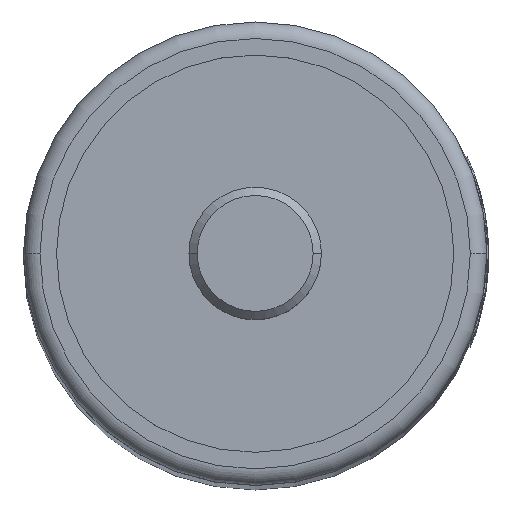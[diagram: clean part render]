
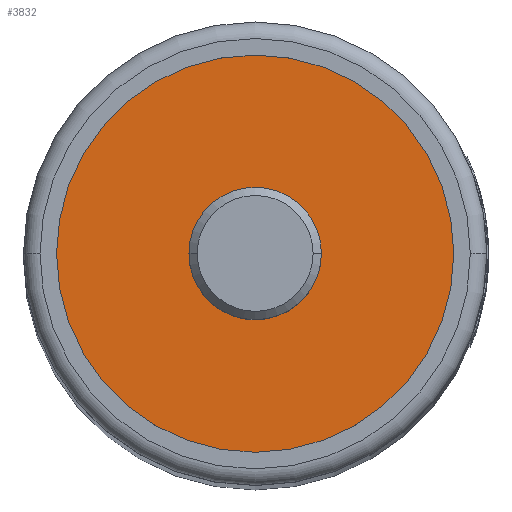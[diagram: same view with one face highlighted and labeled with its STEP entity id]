
A CAD part, top view. The second image highlights one B-rep face of the part: STEP entity #3832.
In plain terms, the highlighted planar face has unit normal (0, 0, 1).
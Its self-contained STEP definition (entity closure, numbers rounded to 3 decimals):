
#414 = CARTESIAN_POINT ( 'NONE',  ( 0., 0., 160. ) ) ;
#1060 = CIRCLE ( 'NONE', #13389, 4. ) ;
#1388 = EDGE_CURVE ( 'NONE', #4043, #12963, #14371, .T. ) ;
#1552 = AXIS2_PLACEMENT_3D ( 'NONE', #17140, #15897, #12738 ) ;
#1720 = CIRCLE ( 'NONE', #1552, 12. ) ;
#1882 = DIRECTION ( 'NONE',  ( 1., 0., 0. ) ) ;
#1908 = DIRECTION ( 'NONE',  ( 1., 0., 0. ) ) ;
#3264 = EDGE_CURVE ( 'NONE', #7329, #7827, #1720, .T. ) ;
#3600 = FACE_BOUND ( 'NONE', #19265, .T. ) ;
#3620 = CARTESIAN_POINT ( 'NONE',  ( -4., 0., 160. ) ) ;
#3832 = ADVANCED_FACE ( 'NONE', ( #3600, #15938 ), #16950, .T. ) ;
#3845 = CARTESIAN_POINT ( 'NONE',  ( -12., 0., 160. ) ) ;
#4043 = VERTEX_POINT ( 'NONE', #14652 ) ;
#6450 = CARTESIAN_POINT ( 'NONE',  ( 0., 0., 160. ) ) ;
#7329 = VERTEX_POINT ( 'NONE', #3845 ) ;
#7827 = VERTEX_POINT ( 'NONE', #16015 ) ;
#7970 = DIRECTION ( 'NONE',  ( 0., 0., 1. ) ) ;
#8481 = AXIS2_PLACEMENT_3D ( 'NONE', #9233, #15127, #18333 ) ;
#9233 = CARTESIAN_POINT ( 'NONE',  ( 0., 0., 160. ) ) ;
#11282 = ORIENTED_EDGE ( 'NONE', *, *, #18909, .F. ) ;
#11317 = CARTESIAN_POINT ( 'NONE',  ( 0., 0., 160. ) ) ;
#12379 = DIRECTION ( 'NONE',  ( 0., 0., 1. ) ) ;
#12421 = ORIENTED_EDGE ( 'NONE', *, *, #12755, .T. ) ;
#12678 = AXIS2_PLACEMENT_3D ( 'NONE', #11317, #16199, #14754 ) ;
#12738 = DIRECTION ( 'NONE',  ( 1., 0., 0. ) ) ;
#12755 = EDGE_CURVE ( 'NONE', #7827, #7329, #16270, .T. ) ;
#12963 = VERTEX_POINT ( 'NONE', #3620 ) ;
#13389 = AXIS2_PLACEMENT_3D ( 'NONE', #414, #12379, #1908 ) ;
#14096 = AXIS2_PLACEMENT_3D ( 'NONE', #6450, #7970, #1882 ) ;
#14371 = CIRCLE ( 'NONE', #12678, 4. ) ;
#14652 = CARTESIAN_POINT ( 'NONE',  ( 4., 0., 160. ) ) ;
#14754 = DIRECTION ( 'NONE',  ( 1., 0., 0. ) ) ;
#14950 = ORIENTED_EDGE ( 'NONE', *, *, #1388, .F. ) ;
#15127 = DIRECTION ( 'NONE',  ( 0., 0., 1. ) ) ;
#15897 = DIRECTION ( 'NONE',  ( 0., 0., 1. ) ) ;
#15938 = FACE_OUTER_BOUND ( 'NONE', #17745, .T. ) ;
#16015 = CARTESIAN_POINT ( 'NONE',  ( 12., 0., 160. ) ) ;
#16199 = DIRECTION ( 'NONE',  ( 0., 0., 1. ) ) ;
#16270 = CIRCLE ( 'NONE', #8481, 12. ) ;
#16950 = PLANE ( 'NONE',  #14096 ) ;
#17140 = CARTESIAN_POINT ( 'NONE',  ( 0., 0., 160. ) ) ;
#17484 = ORIENTED_EDGE ( 'NONE', *, *, #3264, .T. ) ;
#17745 = EDGE_LOOP ( 'NONE', ( #17484, #12421 ) ) ;
#18333 = DIRECTION ( 'NONE',  ( 1., 0., 0. ) ) ;
#18909 = EDGE_CURVE ( 'NONE', #12963, #4043, #1060, .T. ) ;
#19265 = EDGE_LOOP ( 'NONE', ( #11282, #14950 ) ) ;
